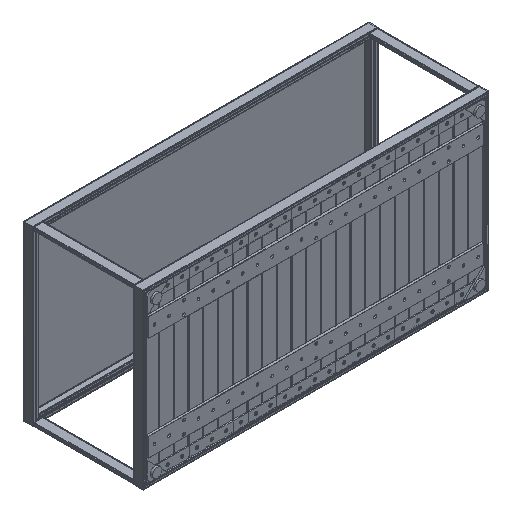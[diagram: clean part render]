
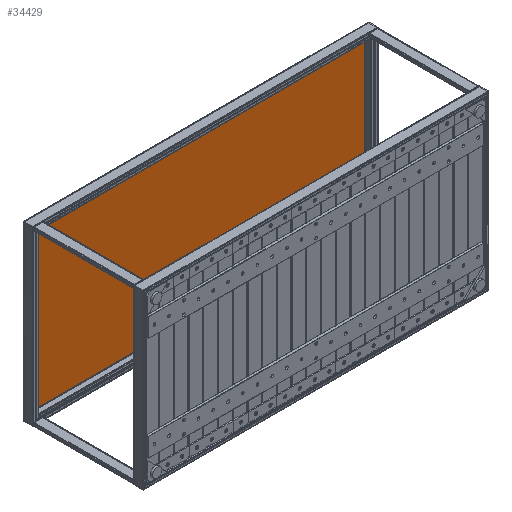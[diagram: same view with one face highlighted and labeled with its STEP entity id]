
A CAD part, isometric view. The second image highlights one B-rep face of the part: STEP entity #34429.
In plain terms, the highlighted planar face has unit normal (0, -1, 0).
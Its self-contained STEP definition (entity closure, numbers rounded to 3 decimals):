
#2590=CIRCLE('',#39350,0.5);
#2592=CIRCLE('',#39354,0.5);
#2594=CIRCLE('',#39358,0.5);
#2596=CIRCLE('',#39362,0.5);
#5351=FACE_OUTER_BOUND('',#7577,.T.);
#7577=EDGE_LOOP('',(#24925,#24926,#24927,#24928,#24929,#24930,#24931,#24932));
#10066=LINE('',#55193,#12292);
#10071=LINE('',#55207,#12297);
#10075=LINE('',#55219,#12301);
#10079=LINE('',#55231,#12305);
#12292=VECTOR('',#44955,10.);
#12297=VECTOR('',#44968,10.);
#12301=VECTOR('',#44980,10.);
#12305=VECTOR('',#44992,10.);
#14860=VERTEX_POINT('',#55190);
#14861=VERTEX_POINT('',#55192);
#14864=VERTEX_POINT('',#55200);
#14866=VERTEX_POINT('',#55205);
#14868=VERTEX_POINT('',#55212);
#14870=VERTEX_POINT('',#55217);
#14872=VERTEX_POINT('',#55224);
#14874=VERTEX_POINT('',#55229);
#18590=EDGE_CURVE('',#14860,#14861,#10066,.T.);
#18595=EDGE_CURVE('',#14864,#14860,#2590,.T.);
#18597=EDGE_CURVE('',#14866,#14864,#10071,.T.);
#18601=EDGE_CURVE('',#14868,#14866,#2592,.T.);
#18603=EDGE_CURVE('',#14870,#14868,#10075,.T.);
#18607=EDGE_CURVE('',#14872,#14870,#2594,.T.);
#18609=EDGE_CURVE('',#14874,#14872,#10079,.T.);
#18612=EDGE_CURVE('',#14861,#14874,#2596,.T.);
#24925=ORIENTED_EDGE('',*,*,#18590,.F.);
#24926=ORIENTED_EDGE('',*,*,#18595,.F.);
#24927=ORIENTED_EDGE('',*,*,#18597,.F.);
#24928=ORIENTED_EDGE('',*,*,#18601,.F.);
#24929=ORIENTED_EDGE('',*,*,#18603,.F.);
#24930=ORIENTED_EDGE('',*,*,#18607,.F.);
#24931=ORIENTED_EDGE('',*,*,#18609,.F.);
#24932=ORIENTED_EDGE('',*,*,#18612,.F.);
#33311=PLANE('',#39369);
#34429=ADVANCED_FACE('',(#5351),#33311,.T.);
#39350=AXIS2_PLACEMENT_3D('',#55202,#44963,#44964);
#39354=AXIS2_PLACEMENT_3D('',#55214,#44975,#44976);
#39358=AXIS2_PLACEMENT_3D('',#55226,#44987,#44988);
#39362=AXIS2_PLACEMENT_3D('',#55235,#44998,#44999);
#39369=AXIS2_PLACEMENT_3D('',#55254,#45019,#45020);
#44955=DIRECTION('',(1.,0.,0.));
#44963=DIRECTION('center_axis',(0.,1.,0.));
#44964=DIRECTION('ref_axis',(-0.707,0.,0.707));
#44968=DIRECTION('',(0.,0.,1.));
#44975=DIRECTION('center_axis',(0.,1.,0.));
#44976=DIRECTION('ref_axis',(-0.707,0.,-0.707));
#44980=DIRECTION('',(-1.,0.,0.));
#44987=DIRECTION('center_axis',(0.,1.,0.));
#44988=DIRECTION('ref_axis',(0.707,0.,-0.707));
#44992=DIRECTION('',(0.,0.,-1.));
#44998=DIRECTION('center_axis',(0.,1.,0.));
#44999=DIRECTION('ref_axis',(0.707,0.,0.707));
#45019=DIRECTION('center_axis',(0.,-1.,0.));
#45020=DIRECTION('ref_axis',(0.,0.,1.));
#55190=CARTESIAN_POINT('',(-487.,342.,237.5));
#55192=CARTESIAN_POINT('',(487.,342.,237.5));
#55193=CARTESIAN_POINT('',(-244.5,342.,237.5));
#55200=CARTESIAN_POINT('',(-487.5,342.,237.));
#55202=CARTESIAN_POINT('Origin',(-487.,342.,237.));
#55205=CARTESIAN_POINT('',(-487.5,342.,-237.));
#55207=CARTESIAN_POINT('',(-487.5,342.,-119.5));
#55212=CARTESIAN_POINT('',(-487.,342.,-237.5));
#55214=CARTESIAN_POINT('Origin',(-487.,342.,-237.));
#55217=CARTESIAN_POINT('',(487.,342.,-237.5));
#55219=CARTESIAN_POINT('',(244.5,342.,-237.5));
#55224=CARTESIAN_POINT('',(487.5,342.,-237.));
#55226=CARTESIAN_POINT('Origin',(487.,342.,-237.));
#55229=CARTESIAN_POINT('',(487.5,342.,237.));
#55231=CARTESIAN_POINT('',(487.5,342.,119.5));
#55235=CARTESIAN_POINT('Origin',(487.,342.,237.));
#55254=CARTESIAN_POINT('Origin',(0.,342.,0.));
